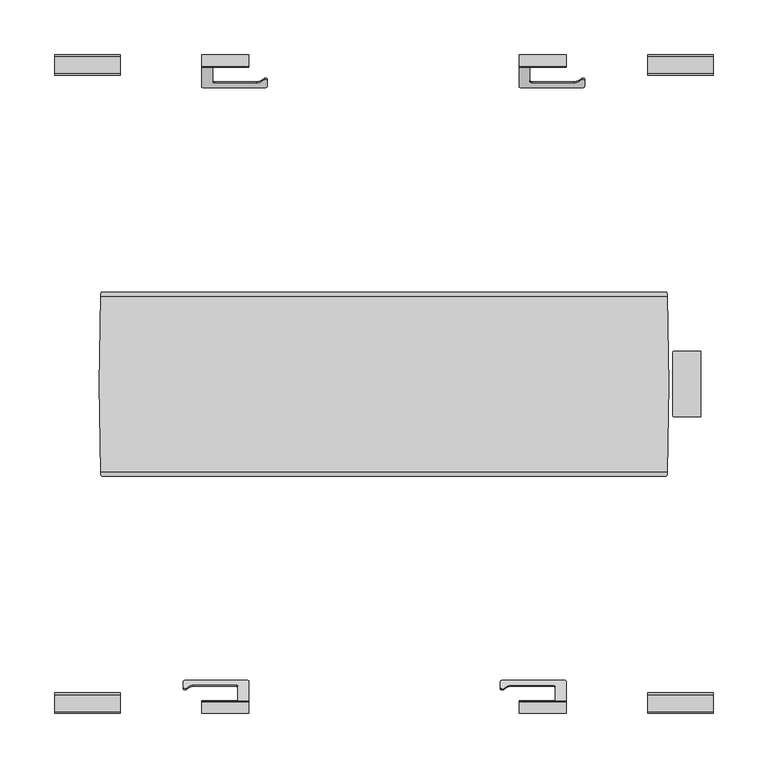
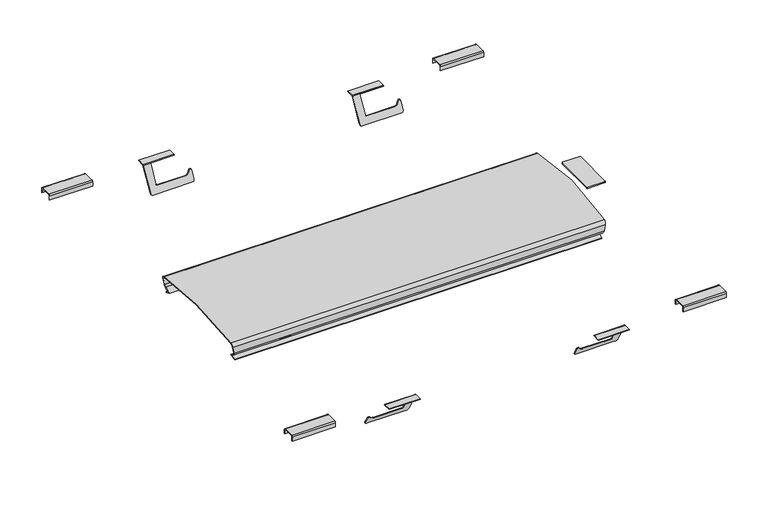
"""IFC4 building model written with IfcOpenShell, lengths in millimetres: light fixture geometry."""

from ifc_helpers import new_model, si_unit, point, frame, frame_2d, origin, origin_with_axes, place, context, project, spatial, polyline, circle_curve, ellipse_curve, trimmed, segment, composite_curve, outline, extrude, source, transform, mapped, element, save
from ifc_brep_helpers import plane_surface, cylinder_surface, revolved_surface, advanced_brep


def light_fixture_d758fedb(model_context):
    return source(origin(), model_context, "Body", "SolidModel", [
        extrude(outline(composite_curve([segment(trimmed(circle_curve(frame_2d((288.3884004, 32.8813286)), 0.79375), [point((288.3884004, 33.6750786))], [point((289.1821504, 32.8813286))], False, "CARTESIAN"), True, "CONTINUOUS"), segment(polyline([(289.1821504, 32.8813286), (289.1821504, -25.7936714)]), True, "CONTINUOUS"), segment(trimmed(circle_curve(frame_2d((288.3884004, -25.7936714)), 0.79375), [point((289.1821504, -25.7936714))], [point((288.3884004, -26.5874214))], False, "CARTESIAN"), True, "CONTINUOUS"), segment(polyline([(288.3884004, -26.5874214), (264.6134004, -26.5874214)]), True, "CONTINUOUS"), segment(trimmed(circle_curve(frame_2d((264.6134004, -25.7936714)), 0.79375), [point((264.6134004, -26.5874214))], [point((263.8196504, -25.7936714))], False, "CARTESIAN"), True, "CONTINUOUS"), segment(polyline([(263.8196504, -25.7936714), (263.8196504, 32.8813286)]), True, "CONTINUOUS"), segment(trimmed(circle_curve(frame_2d((264.6134004, 32.8813286)), 0.79375), [point((263.8196504, 32.8813286))], [point((264.6134004, 33.6750786))], False, "CARTESIAN"), True, "CONTINUOUS"), segment(polyline([(264.6134004, 33.6750786), (288.3884004, 33.6750786)]), True, "CONTINUOUS")], self_intersect=False)), origin_with_axes(), (0.0, 0.0, 1.0), 1.984375),
        advanced_brep(
        [(-255.6073032, -78.4782255, -30.5886096), (-256.2970264, -80.5144833, -26.6769947), (-257.8773567, -80.5144833, -17.7144962), (-258.6991706, -76.7312326, -13.0537584), (-258.7049127, 83.6637386, -13.0211931), (-257.8750742, 87.4855167, -17.7274414), (-256.2767435, 87.4855167, -26.7920248), (-255.5870203, 85.4492589, -30.7036397), (-254.8304406, 79.3213945, -34.9944165), (-254.3568793, 85.9565252, -37.6801157), (-254.194711, 85.5842575, -38.5998182), (-254.7890755, 77.256535, -35.2290094), (-255.7303305, 84.8801635, -29.8908873), (-256.2767435, 86.4933292, -26.7920248), (-257.8750742, 86.4933292, -17.7274414), (-258.5336869, 83.4601226, -13.9922629), (-258.5279593, -76.5272223, -14.0247455), (-257.8773567, -79.5222958, -17.7144962), (-256.2970264, -79.5222958, -26.6769947), (-255.7506134, -77.9091301, -29.7758572), (-254.7890755, -70.1212216, -35.2290094), (-254.194711, -78.4489441, -38.5998182), (-254.3568793, -78.8212117, -37.6801157), (-254.8304406, -72.186081, -34.9944165), (256.2970264, -80.5144833, -26.6769947), (255.6073032, -78.4782255, -30.5886096), (254.8304406, -72.186081, -34.9944165), (254.3568793, -78.8212117, -37.6801157), (254.194711, -78.4489441, -38.5998182), (254.7890755, -70.1212216, -35.2290094), (255.7506134, -77.9091301, -29.7758572), (256.2970264, -79.5222958, -26.6769947), (257.8773567, -79.5222958, -17.7144962), (258.5279593, -76.5272223, -14.0247455), (258.5336869, 83.4601226, -13.9922629), (257.8750742, 86.4933292, -17.7274414), (256.2767435, 86.4933292, -26.7920248), (255.7303305, 84.8801635, -29.8908873), (254.7890755, 77.256535, -35.2290094), (254.194711, 85.5842575, -38.5998182), (254.3568793, 85.9565252, -37.6801157), (254.8304406, 79.3213945, -34.9944165), (255.5870203, 85.4492589, -30.7036397), (256.2767435, 87.4855167, -26.7920248), (257.8750742, 87.4855167, -17.7274414), (258.7049127, 83.6637386, -13.0211931), (258.6991706, -76.7312326, -13.0537584), (257.8773567, -80.5144833, -17.7144962)],
        [
            (0, 1, ellipse_curve(frame((-256.2970264, -75.7392833, -26.6769947), z_axis=(-0.9848077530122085, 0.0, -0.1736481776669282), x_axis=(0.17364817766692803, 0.0, -0.9848077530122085)), 4.8488652, 4.7752)),
            (1, 2),
            (2, 3, ellipse_curve(frame((-257.8773567, -75.7519833, -17.7144962), z_axis=(-0.9848077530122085, 0.0, -0.1736481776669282), x_axis=(0.17364817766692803, 0.0, -0.9848077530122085)), 4.8359692, 4.7625)),
            (3, 4, ellipse_curve(frame((-191.3300605, 3.5438286, -395.1229676), z_axis=(-0.9848077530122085, 0.0, -0.1736481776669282), x_axis=(0.17364817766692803, 0.0, -0.9848077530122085)), 396.4340014, 390.4112781)),
            (4, 5, ellipse_curve(frame((-257.8750742, 82.6769225, -17.7274414), z_axis=(-0.9848077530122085, 0.0, -0.1736481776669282), x_axis=(0.17364817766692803, 0.0, -0.9848077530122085)), 4.8827746, 4.8085943)),
            (5, 6),
            (6, 7, ellipse_curve(frame((-256.2767435, 82.7103167, -26.7920248), z_axis=(-0.9848077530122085, 0.0, -0.1736481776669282), x_axis=(0.17364817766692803, 0.0, -0.9848077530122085)), 4.8488652, 4.7752)),
            (7, 8),
            (8, 9),
            (9, 10),
            (10, 11),
            (11, 12),
            (12, 13, ellipse_curve(frame((-256.2767435, 82.7103167, -26.7920248), z_axis=(0.9848077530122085, 0.0, 0.1736481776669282), x_axis=(-0.17364817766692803, 0.0, 0.9848077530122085)), 3.8413716, 3.7830125)),
            (13, 14),
            (14, 15, ellipse_curve(frame((-257.8750742, 82.6769225, -17.7274414), z_axis=(0.9848077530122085, 0.0, 0.1736481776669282), x_axis=(-0.17364817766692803, 0.0, 0.9848077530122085)), 3.875281, 3.8164068)),
            (15, 16, ellipse_curve(frame((-191.3300605, 3.5438286, -395.1229676), z_axis=(0.9848077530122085, 0.0, 0.1736481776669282), x_axis=(-0.17364817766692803, 0.0, 0.9848077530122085)), 395.4265078, 389.4190906)),
            (16, 17, ellipse_curve(frame((-257.8773567, -75.7519833, -17.7144962), z_axis=(0.9848077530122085, 0.0, 0.1736481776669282), x_axis=(-0.17364817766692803, 0.0, 0.9848077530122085)), 3.8284756, 3.7703125)),
            (17, 18),
            (18, 19, ellipse_curve(frame((-256.2970264, -75.7392833, -26.6769947), z_axis=(0.9848077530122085, 0.0, 0.1736481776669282), x_axis=(-0.17364817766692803, 0.0, 0.9848077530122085)), 3.8413716, 3.7830125)),
            (19, 20),
            (20, 21),
            (21, 22),
            (22, 23),
            (23, 0),
            (24, 25, ellipse_curve(frame((256.2970264, -75.7392833, -26.6769947), z_axis=(0.9848077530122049, 0.0, -0.17364817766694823), x_axis=(0.17364817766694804, 0.0, 0.9848077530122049)), 4.8488652, 4.7752)),
            (25, 26),
            (26, 27),
            (27, 28),
            (28, 29),
            (29, 30),
            (30, 31, ellipse_curve(frame((256.2970264, -75.7392833, -26.6769947), z_axis=(-0.9848077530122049, 0.0, 0.17364817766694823), x_axis=(-0.17364817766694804, 0.0, -0.9848077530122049)), 3.8413716, 3.7830125)),
            (31, 32),
            (32, 33, ellipse_curve(frame((257.8773567, -75.7519833, -17.7144962), z_axis=(-0.9848077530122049, 0.0, 0.17364817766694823), x_axis=(-0.17364817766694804, 0.0, -0.9848077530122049)), 3.8284756, 3.7703125)),
            (33, 34, ellipse_curve(frame((191.3300605, 3.5438286, -395.1229676), z_axis=(-0.9848077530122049, 0.0, 0.17364817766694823), x_axis=(-0.17364817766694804, 0.0, -0.9848077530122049)), 395.4265078, 389.4190906)),
            (34, 35, ellipse_curve(frame((257.8750742, 82.6769225, -17.7274414), z_axis=(-0.9848077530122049, 0.0, 0.17364817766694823), x_axis=(-0.17364817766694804, 0.0, -0.9848077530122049)), 3.875281, 3.8164068)),
            (35, 36),
            (36, 37, ellipse_curve(frame((256.2767435, 82.7103167, -26.7920248), z_axis=(-0.9848077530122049, 0.0, 0.17364817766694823), x_axis=(-0.17364817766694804, 0.0, -0.9848077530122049)), 3.8413716, 3.7830125)),
            (37, 38),
            (38, 39),
            (39, 40),
            (40, 41),
            (41, 42),
            (42, 43, ellipse_curve(frame((256.2767435, 82.7103167, -26.7920248), z_axis=(0.9848077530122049, 0.0, -0.17364817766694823), x_axis=(0.17364817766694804, 0.0, 0.9848077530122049)), 4.8488652, 4.7752)),
            (43, 44),
            (44, 45, ellipse_curve(frame((257.8750742, 82.6769225, -17.7274414), z_axis=(0.9848077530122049, 0.0, -0.17364817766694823), x_axis=(0.17364817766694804, 0.0, 0.9848077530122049)), 4.8827746, 4.8085943)),
            (45, 46, ellipse_curve(frame((191.3300605, 3.5438286, -395.1229676), z_axis=(0.9848077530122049, 0.0, -0.17364817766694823), x_axis=(0.17364817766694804, 0.0, 0.9848077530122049)), 396.4340014, 390.4112781)),
            (46, 47, ellipse_curve(frame((257.8773567, -75.7519833, -17.7144962), z_axis=(0.9848077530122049, 0.0, -0.17364817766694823), x_axis=(0.17364817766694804, 0.0, 0.9848077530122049)), 4.8359692, 4.7625)),
            (47, 24),
            (24, 1),
            (0, 25),
            (23, 26),
            (22, 27),
            (21, 28),
            (20, 29),
            (19, 30),
            (18, 31),
            (17, 32),
            (16, 33),
            (15, 34),
            (14, 35),
            (13, 36),
            (12, 37),
            (11, 38),
            (10, 39),
            (9, 40),
            (8, 41),
            (7, 42),
            (6, 43),
            (5, 44),
            (4, 45),
            (3, 46),
            (2, 47),
        ],
        [
            plane_surface(frame((-248.4220366, -297.9323433, -71.3382812), z_axis=(-0.9848077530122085, 0.0, -0.1736481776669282), x_axis=(0.0, 1.0, 0.0))),
            plane_surface(frame((268.5762105, -297.9323433, 42.9617188), z_axis=(0.9848077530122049, 0.0, -0.17364817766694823), x_axis=(0.0, 1.0, 0.0))),
            cylinder_surface(frame((-301.4761719, -75.7392833, -26.6769947), z_axis=(1.0, 0.0, 0.0), x_axis=(0.0, 1.0, 0.0)), 4.7752),
            plane_surface(frame((261.0, -78.4782255, -30.5886096), z_axis=(0.0, -0.5735764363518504, -0.8191520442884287), x_axis=(-1.0, 0.0, 0.0))),
            plane_surface(frame((261.0, -72.186081, -34.9944165), z_axis=(0.0, -0.3751988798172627, 0.9269443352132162), x_axis=(-1.0, 0.0, 0.0))),
            plane_surface(frame((261.0, -78.8212117, -37.6801157), z_axis=(0.0, -0.9269443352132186, -0.37519887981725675), x_axis=(-1.0, 0.0, 0.0))),
            plane_surface(frame((261.0, -78.4489441, -38.5998182), z_axis=(0.0, 0.3751988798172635, -0.9269443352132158), x_axis=(-1.0, 0.0, 0.0))),
            plane_surface(frame((261.0, -70.1212216, -35.2290094), z_axis=(0.0, 0.5735764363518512, 0.8191520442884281), x_axis=(-1.0, 0.0, 0.0))),
            revolved_surface(polyline([(-256.96407357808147, -71.9562708, -26.6769947), (256.9640735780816, -71.9562708, -26.6769947)]), (-301.4761719, -75.7392833, -26.6769947), (-1.0, 0.0, 0.0)),
            plane_surface(frame((261.0, -79.5222958, -26.6769947), z_axis=(0.0, 1.0, 0.0), x_axis=(-1.0, 0.0, 0.0))),
            revolved_surface(polyline([(-258.5421645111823, -71.9816708, -17.7144962), (258.5421645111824, -71.9816708, -17.7144962)]), (-301.4761719, -75.7519833, -17.7144962), (-1.0, 0.0, 0.0)),
            revolved_surface(polyline([(-259.9951529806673, 392.9629192, -395.1229676), (259.9951529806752, 392.9629192, -395.1229676)]), (-301.4761719, 3.5438286, -395.1229676), (-1.0, 0.0, 0.0)),
            revolved_surface(polyline([(-258.54800968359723, 86.4933293, -17.7274414), (258.5480096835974, 86.4933293, -17.7274414)]), (-301.4761719, 82.6769225, -17.7274414), (-1.0, 0.0, 0.0)),
            plane_surface(frame((261.0, 86.4933292, -17.7274414), z_axis=(0.0, -1.0, 1.0247541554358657e-12), x_axis=(-1.0, 0.0, 0.0))),
            revolved_surface(polyline([(-256.9437906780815, 86.4933292, -26.7920248), (256.9437906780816, 86.4933292, -26.7920248)]), (-301.4761719, 82.7103167, -26.7920248), (-1.0, 0.0, 0.0)),
            plane_surface(frame((261.0, 84.8801635, -29.8908873), z_axis=(0.0, -0.5735764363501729, 0.8191520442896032), x_axis=(-1.0, 0.0, 0.0))),
            plane_surface(frame((261.0, 77.256535, -35.2290094), z_axis=(0.0, -0.37519887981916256, -0.9269443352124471), x_axis=(-1.0, 0.0, 0.0))),
            plane_surface(frame((261.0, 85.5842575, -38.5998182), z_axis=(0.0, 0.9269443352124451, -0.3751988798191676), x_axis=(-1.0, 0.0, 0.0))),
            plane_surface(frame((261.0, 85.9565252, -37.6801157), z_axis=(0.0, 0.37519887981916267, 0.9269443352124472), x_axis=(-1.0, 0.0, 0.0))),
            plane_surface(frame((261.0, 79.3213945, -34.9944165), z_axis=(0.0, 0.5735764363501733, -0.819152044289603), x_axis=(-1.0, 0.0, 0.0))),
            cylinder_surface(frame((-301.4761719, 82.7103167, -26.7920248), z_axis=(1.0, 0.0, 0.0), x_axis=(0.0, 1.0, 0.0)), 4.7752),
            plane_surface(frame((261.0, 87.4855167, -26.7920248), z_axis=(0.0, 1.0, -1.0247541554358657e-12), x_axis=(-1.0, 0.0, 0.0))),
            cylinder_surface(frame((-301.4761719, 82.6769225, -17.7274414), z_axis=(1.0, 0.0, 0.0), x_axis=(0.0, 1.0, 0.0)), 4.8085943),
            cylinder_surface(frame((-301.4761719, 3.5438286, -395.1229676), z_axis=(1.0, 0.0, 0.0), x_axis=(0.0, 1.0, 0.0)), 390.4112781),
            cylinder_surface(frame((-301.4761719, -75.7519833, -17.7144962), z_axis=(1.0, 0.0, 0.0), x_axis=(0.0, 1.0, 0.0)), 4.7625),
            plane_surface(frame((261.0, -80.5144833, -17.7144962), z_axis=(0.0, -1.0, 0.0), x_axis=(-1.0, 0.0, 0.0))),
        ],
        [
            (0, [[1, 2, 3, 4, 5, 6, 7, 8, 9, 10, 11, 12, 13, 14, 15, 16, 17, 18, 19, 20, 21, 22, 23, 24]]),
            (1, [[25, 26, 27, 28, 29, 30, 31, 32, 33, 34, 35, 36, 37, 38, 39, 40, 41, 42, 43, 44, 45, 46, 47, 48]]),
            (2, [[49, -1, 50, -25]]),
            (3, [[-50, -24, 51, -26]]),
            (4, [[-51, -23, 52, -27]]),
            (5, [[-52, -22, 53, -28]]),
            (6, [[-53, -21, 54, -29]]),
            (7, [[-54, -20, 55, -30]]),
            (8, [[-55, -19, 56, -31]]),
            (9, [[-56, -18, 57, -32]]),
            (10, [[-57, -17, 58, -33]]),
            (11, [[-58, -16, 59, -34]]),
            (12, [[-59, -15, 60, -35]]),
            (13, [[-60, -14, 61, -36]]),
            (14, [[-61, -13, 62, -37]]),
            (15, [[-62, -12, 63, -38]]),
            (16, [[-63, -11, 64, -39]]),
            (17, [[-64, -10, 65, -40]]),
            (18, [[-65, -9, 66, -41]]),
            (19, [[-66, -8, 67, -42]]),
            (20, [[-67, -7, 68, -43]]),
            (21, [[-68, -6, 69, -44]]),
            (22, [[-69, -5, 70, -45]]),
            (23, [[-70, -4, 71, -46]]),
            (24, [[-71, -3, 72, -47]]),
            (25, [[-49, -48, -72, -2]]),
        ],
    ),
        advanced_brep(
        [(173.7940577, 279.7314152, -33.398086), (173.7940577, 278.8148717, -33.398086), (178.0879015, 279.9926649, -31.3580883), (178.0879015, 280.9092084, -31.3580883), (180.4331692, 281.6543404, -28.4799818), (180.4331692, 282.570884, -28.4799818), (183.329416, 281.0593198, -29.5105878), (183.329416, 281.9758633, -29.5105878), (183.329416, 275.6987473, -38.7953718), (183.329416, 276.6152908, -38.7953718), (181.4384554, 273.89967, -41.911465), (179.8164478, 274.5870777, -42.30834), (123.329416, 275.3427686, -39.4119449), (123.329416, 276.2593122, -39.4119449), (126.2258111, 274.5870777, -42.30834), (124.7624233, 273.89967, -41.911465), (123.329416, 292.9028585, -8.996977), (123.329416, 293.9152023, -8.4125), (123.329416, 304.2262505, -8.4125), (123.329416, 304.2262505, -9.20625), (123.329416, 293.6985782, -9.20625), (166.329416, 304.2262505, -8.4125), (166.329416, 293.9152023, -8.4125), (166.329416, 292.9028585, -8.996977), (166.329416, 292.7820347, -9.20625), (166.329416, 304.2262505, -9.20625), (133.329416, 293.6985782, -9.20625), (133.329416, 292.7820347, -9.20625), (133.329416, 279.7314152, -31.810586), (133.329416, 280.6479588, -31.810586), (134.916916, 278.8148717, -33.398086), (134.916916, 279.7314152, -33.398086)],
        [
            (0, 1),
            (1, 2, ellipse_curve(frame((173.7940577, 282.012757, -27.8591861), z_axis=(0.0, -0.866025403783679, 0.5000000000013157), x_axis=(0.0, -0.5000000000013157, -0.866025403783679)), 6.3957706, 5.5388999)),
            (2, 3),
            (3, 0, ellipse_curve(frame((173.7940577, 282.9293006, -27.8591861), z_axis=(0.0, 0.8660254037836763, -0.5000000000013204), x_axis=(0.0, -0.5000000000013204, -0.8660254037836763)), 6.3957706, 5.5388999)),
            (2, 4),
            (4, 5),
            (5, 3),
            (4, 6, ellipse_curve(frame((181.6979262, 281.0593198, -29.5105878), z_axis=(0.0, 0.866025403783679, -0.5000000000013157), x_axis=(0.0, 0.5000000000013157, 0.866025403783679)), 1.8838821, 1.6314898)),
            (6, 7),
            (7, 5, ellipse_curve(frame((181.6979262, 281.9758633, -29.5105878), z_axis=(0.0, -0.8660254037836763, 0.5000000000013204), x_axis=(0.0, 0.5000000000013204, 0.8660254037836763)), 1.8838821, 1.6314898)),
            (6, 8),
            (8, 9),
            (9, 7),
            (8, 10, ellipse_curve(frame((179.8164478, 275.6987473, -38.7953718), z_axis=(0.0, 0.866025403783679, -0.5000000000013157), x_axis=(0.0, 0.5000000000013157, 0.866025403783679)), 4.0564263, 3.5129682)),
            (10, 11, ellipse_curve(frame((179.8164478, 268.5024382, -38.7953718), z_axis=(0.0, 0.5000000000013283, 0.8660254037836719), x_axis=(0.0, 0.8660254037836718, -0.5000000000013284)), 7.0259365, 3.5129682)),
            (11, 9, ellipse_curve(frame((179.8164478, 276.6152908, -38.7953718), z_axis=(0.0, -0.8660254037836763, 0.5000000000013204), x_axis=(0.0, 0.5000000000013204, 0.8660254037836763)), 4.0564263, 3.5129682)),
            (12, 13),
            (13, 14, ellipse_curve(frame((126.2258111, 276.2593122, -39.4119449), z_axis=(0.0, -0.8660254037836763, 0.5000000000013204), x_axis=(0.0, 0.5000000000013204, 0.8660254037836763)), 3.344469, 2.8963951)),
            (14, 15, ellipse_curve(frame((126.2258111, 269.5703742, -39.4119449), z_axis=(0.0, 0.5000000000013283, 0.8660254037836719), x_axis=(0.0, 0.8660254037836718, -0.5000000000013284)), 5.7927902, 2.8963951)),
            (15, 12, ellipse_curve(frame((126.2258111, 275.3427686, -39.4119449), z_axis=(0.0, 0.866025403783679, -0.5000000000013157), x_axis=(0.0, 0.5000000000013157, 0.866025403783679)), 3.344469, 2.8963951)),
            (12, 16),
            (16, 17, circle_curve(frame((123.329416, 293.9152023, -9.5814539), z_axis=(-1.0, 0.0, 0.0), x_axis=(0.0, 1.0, 0.0)), 1.1689539)),
            (17, 18),
            (18, 19),
            (19, 20),
            (20, 13),
            (21, 22),
            (22, 23, circle_curve(frame((166.329416, 293.9152023, -9.5814539), z_axis=(1.0, 0.0, 0.0), x_axis=(0.0, 1.0, 0.0)), 1.1689539)),
            (23, 24),
            (24, 25),
            (25, 21),
            (26, 27),
            (27, 28),
            (28, 29),
            (29, 26),
            (28, 30, ellipse_curve(frame((134.916916, 279.7314152, -31.810586), z_axis=(0.0, -0.866025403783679, 0.5000000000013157), x_axis=(0.0, -0.5000000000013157, -0.866025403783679)), 1.8330871, 1.5875)),
            (30, 31),
            (31, 29, ellipse_curve(frame((134.916916, 280.6479588, -31.810586), z_axis=(0.0, 0.8660254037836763, -0.5000000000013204), x_axis=(0.0, -0.5000000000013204, -0.8660254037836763)), 1.8330871, 1.5875)),
            (0, 31),
            (30, 1),
            (21, 18),
            (17, 22),
            (16, 23),
            (15, 10),
            (27, 24),
            (14, 11),
            (20, 26),
            (19, 25),
        ],
        [
            revolved_surface(polyline([(179.3329576, 278.8148716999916, -27.8591861), (179.3329576, 286.12718590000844, -27.8591861)]), (173.7940577, 3.5438286, -27.8591861), (0.0, -1.0, 0.0)),
            plane_surface(frame((178.0879015, 3.5438286, -31.3580883), z_axis=(-0.7752160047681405, 0.0, 0.6316962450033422), x_axis=(0.0, 1.0, 0.0))),
            cylinder_surface(frame((181.6979262, 3.5438286, -29.5105878), z_axis=(0.0, 1.0, 0.0), x_axis=(1.0, 0.0, 0.0)), 1.6314898),
            plane_surface(frame((183.329416, 3.5438286, -29.5105878), z_axis=(1.0, 0.0, 0.0), x_axis=(0.0, 1.0, 0.0))),
            cylinder_surface(frame((179.8164478, 3.5438286, -38.7953718), z_axis=(0.0, 1.0, 0.0), x_axis=(1.0, 0.0, 0.0)), 3.5129682),
            cylinder_surface(frame((126.2258111, 3.5438286, -39.4119449), z_axis=(0.0, 1.0, 0.0), x_axis=(1.0, 0.0, 0.0)), 2.8963951),
            plane_surface(frame((123.329416, 3.5438286, -39.4119449), z_axis=(-1.0, 0.0, 0.0), x_axis=(0.0, 1.0, 0.0))),
            plane_surface(frame((166.329416, 3.5438286, -5.4585728), z_axis=(1.0, 0.0, 0.0), x_axis=(0.0, 1.0, 0.0))),
            plane_surface(frame((133.329416, 3.5438286, -9.20625), z_axis=(1.0, 0.0, 0.0), x_axis=(0.0, 1.0, 0.0))),
            revolved_surface(polyline([(136.504416, 278.8148716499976, -31.810586), (136.504416, 281.56450235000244, -31.810586)]), (134.916916, 3.5438286, -31.810586), (0.0, -1.0, 0.0)),
            plane_surface(frame((134.916916, 3.5438286, -33.398086), z_axis=(0.0, 0.0, 1.0), x_axis=(0.0, 1.0, 0.0))),
            plane_surface(frame((186.784375, 304.2262505, -8.4125), z_axis=(0.0, 0.0, 1.0), x_axis=(-1.0, 0.0, 0.0))),
            cylinder_surface(frame((103.3484548, 293.9152023, -9.5814539), z_axis=(1.0, 0.0, 0.0), x_axis=(0.0, 1.0, 0.0)), 1.1689539),
            plane_surface(frame((186.784375, 292.9028585, -8.996977), z_axis=(0.0, -0.866025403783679, 0.5000000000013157), x_axis=(-1.0, 0.0, 0.0))),
            plane_surface(frame((186.784375, 273.89967, -41.911465), z_axis=(0.0, -0.5000000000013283, -0.8660254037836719), x_axis=(-1.0, 0.0, 0.0))),
            plane_surface(frame((186.784375, 274.5870777, -42.30834), z_axis=(0.0, 0.8660254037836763, -0.5000000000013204), x_axis=(-1.0, 0.0, 0.0))),
            plane_surface(frame((186.784375, 293.6985782, -9.20625), z_axis=(0.0, 0.0, -1.0), x_axis=(-1.0, 0.0, 0.0))),
            plane_surface(frame((186.784375, 304.2262505, -9.20625), z_axis=(0.0, 1.0, 0.0), x_axis=(-1.0, 0.0, 0.0))),
        ],
        [
            (0, [[1, 2, 3, 4]]),
            (1, [[-3, 5, 6, 7]]),
            (2, [[-6, 8, 9, 10]]),
            (3, [[-9, 11, 12, 13]]),
            (4, [[-12, 14, 15, 16]]),
            (5, [[17, 18, 19, 20]]),
            (6, [[-17, 21, 22, 23, 24, 25, 26]]),
            (7, [[27, 28, 29, 30, 31]]),
            (8, [[32, 33, 34, 35]]),
            (9, [[-34, 36, 37, 38]]),
            (10, [[-1, 39, -37, 40]]),
            (11, [[41, -23, 42, -27]]),
            (12, [[-42, -22, 43, -28]]),
            (13, [[-43, -21, -20, 44, -14, -11, -8, -5, -2, -40, -36, -33, 45, -29]]),
            (14, [[-44, -19, 46, -15]]),
            (15, [[-46, -18, -26, 47, -35, -38, -39, -4, -7, -10, -13, -16]]),
            (16, [[-47, -25, 48, -30, -45, -32]]),
            (17, [[-41, -31, -48, -24]]),
        ],
    ),
        advanced_brep(
        [(166.329416, -297.1385933, -8.4125), (123.329416, -297.1385933, -8.4125), (123.329416, -297.1385933, -9.20625), (166.329416, -297.1385933, -9.20625), (123.329416, -285.6943775, -9.20625), (156.329416, -285.6943775, -9.20625), (156.329416, -286.610921, -9.20625), (166.329416, -286.610921, -9.20625), (156.329416, -273.5603016, -31.810586), (154.741916, -272.643758, -33.398086), (115.8647743, -272.643758, -33.398086), (111.5709305, -273.8215512, -31.3580883), (109.2256628, -275.4832268, -28.4799818), (106.329416, -274.8882061, -29.5105878), (106.329416, -269.5276336, -38.7953718), (109.8423842, -267.4994205, -42.30834), (163.4330209, -267.4994205, -42.30834), (166.329416, -269.171655, -39.4119449), (108.2203766, -266.8120128, -41.911465), (164.8964087, -266.8120128, -41.911465), (106.329416, -268.6110901, -38.7953718), (106.329416, -273.9716626, -29.5105878), (109.2256628, -274.5666832, -28.4799818), (111.5709305, -272.9050076, -31.3580883), (115.8647743, -271.7272145, -33.398086), (154.741916, -271.7272145, -33.398086), (156.329416, -272.643758, -31.810586), (123.329416, -285.8152013, -8.996977), (166.329416, -285.8152013, -8.996977), (166.329416, -268.2551114, -39.4119449), (123.329416, -286.8275451, -8.4125), (166.329416, -286.8275451, -8.4125)],
        [
            (0, 1),
            (1, 2),
            (2, 3),
            (3, 0),
            (4, 5),
            (5, 6),
            (6, 7),
            (7, 3),
            (2, 4),
            (6, 8),
            (8, 9, ellipse_curve(frame((154.741916, -273.5603016, -31.810586), z_axis=(0.0, 0.86602540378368, 0.5000000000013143), x_axis=(0.0, -0.500000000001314, 0.8660254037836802)), 1.8330871, 1.5875)),
            (9, 10),
            (10, 11, ellipse_curve(frame((115.8647743, -275.8416433, -27.8591861), z_axis=(0.0, 0.86602540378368, 0.5000000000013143), x_axis=(0.0, -0.500000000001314, 0.8660254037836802)), 6.3957706, 5.5388999)),
            (11, 12),
            (12, 13, ellipse_curve(frame((107.9609058, -274.8882061, -29.5105878), z_axis=(0.0, -0.86602540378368, -0.5000000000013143), x_axis=(0.0, 0.500000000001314, -0.8660254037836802)), 1.8838821, 1.6314898)),
            (13, 14),
            (14, 15, ellipse_curve(frame((109.8423842, -269.5276336, -38.7953718), z_axis=(0.0, -0.86602540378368, -0.5000000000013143), x_axis=(0.0, 0.500000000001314, -0.8660254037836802)), 4.0564263, 3.5129682)),
            (15, 16),
            (16, 17, ellipse_curve(frame((163.4330209, -269.171655, -39.4119449), z_axis=(0.0, -0.86602540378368, -0.5000000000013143), x_axis=(0.0, 0.500000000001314, -0.8660254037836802)), 3.344469, 2.8963951)),
            (17, 7),
            (15, 18, ellipse_curve(frame((109.8423842, -261.414781, -38.7953718), z_axis=(0.0, 0.5000000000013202, -0.8660254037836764), x_axis=(0.0, 0.8660254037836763, 0.50000000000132)), 7.0259365, 3.5129682)),
            (18, 19),
            (19, 16, ellipse_curve(frame((163.4330209, -262.482717, -39.4119449), z_axis=(0.0, 0.5000000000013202, -0.8660254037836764), x_axis=(0.0, 0.8660254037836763, 0.50000000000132)), 5.7927902, 2.8963951)),
            (18, 20, ellipse_curve(frame((109.8423842, -268.6110901, -38.7953718), z_axis=(0.0, 0.8660254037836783, 0.500000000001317), x_axis=(0.0, 0.500000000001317, -0.8660254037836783)), 4.0564263, 3.5129682)),
            (20, 21),
            (21, 22, ellipse_curve(frame((107.9609058, -273.9716626, -29.5105878), z_axis=(0.0, 0.8660254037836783, 0.500000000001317), x_axis=(0.0, 0.500000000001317, -0.8660254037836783)), 1.8838821, 1.6314898)),
            (22, 23),
            (23, 24, ellipse_curve(frame((115.8647743, -274.9250998, -27.8591861), z_axis=(0.0, -0.8660254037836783, -0.500000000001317), x_axis=(0.0, -0.500000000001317, 0.8660254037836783)), 6.3957706, 5.5388999)),
            (24, 25),
            (25, 26, ellipse_curve(frame((154.741916, -272.643758, -31.810586), z_axis=(0.0, -0.8660254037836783, -0.500000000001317), x_axis=(0.0, -0.500000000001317, 0.8660254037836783)), 1.8330871, 1.5875)),
            (26, 5),
            (4, 27),
            (27, 28),
            (28, 29),
            (29, 19, ellipse_curve(frame((163.4330209, -268.2551114, -39.4119449), z_axis=(0.0, 0.8660254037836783, 0.500000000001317), x_axis=(0.0, 0.500000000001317, -0.8660254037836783)), 3.344469, 2.8963951)),
            (27, 30, circle_curve(frame((123.329416, -286.8275451, -9.5814539), z_axis=(1.0, 0.0, 0.0), x_axis=(0.0, 1.0, 0.0)), 1.1689539)),
            (30, 31),
            (31, 28, circle_curve(frame((166.329416, -286.8275451, -9.5814539), z_axis=(-1.0, 0.0, 0.0), x_axis=(0.0, 1.0, 0.0)), 1.1689539)),
            (0, 31),
            (30, 1),
            (24, 10),
            (9, 25),
            (8, 26),
            (17, 29),
            (14, 20),
            (13, 21),
            (12, 22),
            (11, 23),
        ],
        [
            plane_surface(frame((186.784375, -297.1385933, -8.4125), z_axis=(0.0, -1.0, 0.0), x_axis=(-1.0, 0.0, 0.0))),
            plane_surface(frame((186.784375, -297.1385933, -9.20625), z_axis=(0.0, 0.0, -1.0), x_axis=(-1.0, 0.0, 0.0))),
            plane_surface(frame((186.784375, -286.610921, -9.20625), z_axis=(0.0, -0.86602540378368, -0.5000000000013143), x_axis=(-1.0, 0.0, 0.0))),
            plane_surface(frame((186.784375, -267.4994205, -42.30834), z_axis=(0.0, 0.5000000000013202, -0.8660254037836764), x_axis=(-1.0, 0.0, 0.0))),
            plane_surface(frame((186.784375, -266.8120128, -41.911465), z_axis=(0.0, 0.8660254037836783, 0.500000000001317), x_axis=(-1.0, 0.0, 0.0))),
            cylinder_surface(frame((900.1843365, -286.8275451, -9.5814539), z_axis=(1.0, 0.0, 0.0), x_axis=(0.0, 1.0, 0.0)), 1.1689539),
            plane_surface(frame((186.784375, -286.8275451, -8.4125), z_axis=(0.0, 0.0, 1.0), x_axis=(-1.0, 0.0, 0.0))),
            plane_surface(frame((115.8647743, -297.9323433, -33.398086), z_axis=(0.0, 0.0, 1.0), x_axis=(0.0, 1.0, 0.0))),
            revolved_surface(polyline([(156.329416, -274.4768451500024, -31.810586), (156.329416, -271.7272144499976, -31.810586)]), (154.741916, 3.5438286, -31.810586), (0.0, -1.0, 0.0)),
            plane_surface(frame((156.329416, -297.9323433, -31.810586), z_axis=(-1.0, 0.0, 0.0), x_axis=(0.0, 1.0, 0.0))),
            plane_surface(frame((123.329416, -297.9323433, -9.20625), z_axis=(-1.0, 0.0, 0.0), x_axis=(0.0, 1.0, 0.0))),
            plane_surface(frame((166.329416, -297.9323433, -5.4585728), z_axis=(1.0, 0.0, 0.0), x_axis=(0.0, 1.0, 0.0))),
            cylinder_surface(frame((163.4330209, 3.5438286, -39.4119449), z_axis=(0.0, 1.0, 0.0), x_axis=(1.0, 0.0, 0.0)), 2.8963951),
            cylinder_surface(frame((109.8423842, 3.5438286, -38.7953718), z_axis=(0.0, 1.0, 0.0), x_axis=(1.0, 0.0, 0.0)), 3.5129682),
            plane_surface(frame((106.329416, -297.9323433, -38.7953718), z_axis=(-1.0, 0.0, 0.0), x_axis=(0.0, 1.0, 0.0))),
            cylinder_surface(frame((107.9609058, 3.5438286, -29.5105878), z_axis=(0.0, 1.0, 0.0), x_axis=(1.0, 0.0, 0.0)), 1.6314898),
            plane_surface(frame((109.2256628, -297.9323433, -28.4799818), z_axis=(0.7752160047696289, 0.0, 0.6316962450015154), x_axis=(0.0, 1.0, 0.0))),
            revolved_surface(polyline([(121.4036742, -279.0395286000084, -27.8591861), (121.4036742, -271.7272144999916, -27.8591861)]), (115.8647743, 3.5438286, -27.8591861), (0.0, -1.0, 0.0)),
        ],
        [
            (0, [[1, 2, 3, 4]]),
            (1, [[5, 6, 7, 8, -3, 9]]),
            (2, [[-7, 10, 11, 12, 13, 14, 15, 16, 17, 18, 19, 20]]),
            (3, [[-18, 21, 22, 23]]),
            (4, [[-22, 24, 25, 26, 27, 28, 29, 30, 31, -5, 32, 33, 34, 35]]),
            (5, [[-33, 36, 37, 38]]),
            (6, [[-1, 39, -37, 40]]),
            (7, [[41, -12, 42, -29]]),
            (8, [[-42, -11, 43, -30]]),
            (9, [[-43, -10, -6, -31]]),
            (10, [[-9, -2, -40, -36, -32]]),
            (11, [[44, -34, -38, -39, -4, -8, -20]]),
            (12, [[-44, -19, -23, -35]]),
            (13, [[45, -24, -21, -17]]),
            (14, [[-45, -16, 46, -25]]),
            (15, [[-46, -15, 47, -26]]),
            (16, [[-47, -14, 48, -27]]),
            (17, [[-41, -28, -48, -13]]),
        ],
    ),
        advanced_brep(
        [(-173.9399132, -271.7272145, -33.398086), (-173.9399132, -272.643758, -33.398086), (-135.0627715, -272.643758, -33.398086), (-135.0627715, -271.7272145, -33.398086), (-133.4752715, -273.5603016, -31.810586), (-133.4752715, -272.643758, -31.810586), (-133.4752715, -286.610921, -9.20625), (-133.4752715, -285.6943775, -9.20625), (-123.4752715, -269.171655, -39.4119449), (-123.4752715, -268.2551114, -39.4119449), (-123.4752715, -285.8152013, -8.996977), (-123.4752715, -286.8275451, -8.4125), (-123.4752715, -297.1385933, -8.4125), (-123.4752715, -297.1385933, -9.20625), (-123.4752715, -286.610921, -9.20625), (-126.3716666, -267.4994205, -42.30834), (-124.9082788, -266.8120128, -41.911465), (-183.4752715, -269.5276336, -38.7953718), (-183.4752715, -268.6110901, -38.7953718), (-181.5843109, -266.8120128, -41.911465), (-179.9623033, -267.4994205, -42.30834), (-183.4752715, -274.8882061, -29.5105878), (-183.4752715, -273.9716626, -29.5105878), (-180.5790247, -275.4832268, -28.4799818), (-180.5790247, -274.5666832, -28.4799818), (-178.233757, -273.8215512, -31.3580883), (-178.233757, -272.9050076, -31.3580883), (-166.4752715, -297.1385933, -9.20625), (-166.4752715, -297.1385933, -8.4125), (-166.4752715, -286.8275451, -8.4125), (-166.4752715, -285.8152013, -8.996977), (-166.4752715, -285.6943775, -9.20625)],
        [
            (0, 1),
            (1, 2),
            (2, 3),
            (3, 0),
            (2, 4, ellipse_curve(frame((-135.0627715, -273.5603016, -31.810586), z_axis=(0.0, -0.8660254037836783, -0.5000000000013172), x_axis=(0.0, -0.5000000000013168, 0.8660254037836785)), 1.8330871, 1.5875)),
            (4, 5),
            (5, 3, ellipse_curve(frame((-135.0627715, -272.643758, -31.810586), z_axis=(0.0, 0.8660254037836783, 0.500000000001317), x_axis=(0.0, -0.500000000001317, 0.8660254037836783)), 1.8330871, 1.5875)),
            (4, 6),
            (6, 7),
            (7, 5),
            (8, 9),
            (9, 10),
            (10, 11, circle_curve(frame((-123.4752715, -286.8275451, -9.5814539), z_axis=(1.0, 0.0, 0.0), x_axis=(0.0, 1.0, 0.0)), 1.1689539)),
            (11, 12),
            (12, 13),
            (13, 14),
            (14, 8),
            (8, 15, ellipse_curve(frame((-126.3716666, -269.171655, -39.4119449), z_axis=(0.0, 0.8660254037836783, 0.5000000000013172), x_axis=(0.0, 0.5000000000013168, -0.8660254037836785)), 3.344469, 2.8963951)),
            (15, 16, ellipse_curve(frame((-126.3716666, -262.482717, -39.4119449), z_axis=(0.0, -0.5000000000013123, 0.8660254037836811), x_axis=(0.0, 0.866025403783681, 0.5000000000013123)), 5.7927902, 2.8963951)),
            (16, 9, ellipse_curve(frame((-126.3716666, -268.2551114, -39.4119449), z_axis=(0.0, -0.8660254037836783, -0.500000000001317), x_axis=(0.0, 0.500000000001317, -0.8660254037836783)), 3.344469, 2.8963951)),
            (17, 18),
            (18, 19, ellipse_curve(frame((-179.9623033, -268.6110901, -38.7953718), z_axis=(0.0, -0.8660254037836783, -0.500000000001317), x_axis=(0.0, 0.500000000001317, -0.8660254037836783)), 4.0564263, 3.5129682)),
            (19, 20, ellipse_curve(frame((-179.9623033, -261.414781, -38.7953718), z_axis=(0.0, -0.5000000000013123, 0.8660254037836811), x_axis=(0.0, 0.866025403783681, 0.5000000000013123)), 7.0259365, 3.5129682)),
            (20, 17, ellipse_curve(frame((-179.9623033, -269.5276336, -38.7953718), z_axis=(0.0, 0.8660254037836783, 0.5000000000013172), x_axis=(0.0, 0.5000000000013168, -0.8660254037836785)), 4.0564263, 3.5129682)),
            (17, 21),
            (21, 22),
            (22, 18),
            (21, 23, ellipse_curve(frame((-181.8437817, -274.8882061, -29.5105878), z_axis=(0.0, 0.8660254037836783, 0.5000000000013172), x_axis=(0.0, 0.5000000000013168, -0.8660254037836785)), 1.8838821, 1.6314898)),
            (23, 24),
            (24, 22, ellipse_curve(frame((-181.8437817, -273.9716626, -29.5105878), z_axis=(0.0, -0.8660254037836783, -0.500000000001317), x_axis=(0.0, 0.500000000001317, -0.8660254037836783)), 1.8838821, 1.6314898)),
            (23, 25),
            (25, 26),
            (26, 24),
            (0, 26, ellipse_curve(frame((-173.9399132, -274.9250998, -27.8591861), z_axis=(0.0, 0.8660254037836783, 0.500000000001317), x_axis=(0.0, -0.500000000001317, 0.8660254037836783)), 6.3957706, 5.5388999)),
            (25, 1, ellipse_curve(frame((-173.9399132, -275.8416433, -27.8591861), z_axis=(0.0, -0.8660254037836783, -0.5000000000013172), x_axis=(0.0, -0.5000000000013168, 0.8660254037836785)), 6.3957706, 5.5388999)),
            (27, 28),
            (28, 29),
            (29, 30, circle_curve(frame((-166.4752715, -286.8275451, -9.5814539), z_axis=(-1.0, 0.0, 0.0), x_axis=(0.0, 1.0, 0.0)), 1.1689539)),
            (30, 31),
            (31, 27),
            (12, 28),
            (27, 13),
            (6, 14),
            (31, 7),
            (20, 15),
            (19, 16),
            (30, 10),
            (29, 11),
        ],
        [
            plane_surface(frame((-173.9399132, -297.9323433, -33.398086), z_axis=(0.0, 0.0, 1.0), x_axis=(0.0, 1.0, 0.0))),
            revolved_surface(polyline([(-133.4752715, -274.4768451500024, -31.810586), (-133.4752715, -271.7272144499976, -31.810586)]), (-135.0627715, 3.5438286, -31.810586), (0.0, -1.0, 0.0)),
            plane_surface(frame((-133.4752715, -297.9323433, -31.810586), z_axis=(-1.0, 0.0, 0.0), x_axis=(0.0, 1.0, 0.0))),
            plane_surface(frame((-123.4752715, -297.9323433, -5.4585728), z_axis=(1.0, 0.0, 0.0), x_axis=(0.0, 1.0, 0.0))),
            cylinder_surface(frame((-126.3716666, 3.5438286, -39.4119449), z_axis=(0.0, 1.0, 0.0), x_axis=(1.0, 0.0, 0.0)), 2.8963951),
            cylinder_surface(frame((-179.9623033, 3.5438286, -38.7953718), z_axis=(0.0, 1.0, 0.0), x_axis=(1.0, 0.0, 0.0)), 3.5129682),
            plane_surface(frame((-183.4752715, -297.9323433, -38.7953718), z_axis=(-1.0, 0.0, 0.0), x_axis=(0.0, 1.0, 0.0))),
            cylinder_surface(frame((-181.8437817, 3.5438286, -29.5105878), z_axis=(0.0, 1.0, 0.0), x_axis=(1.0, 0.0, 0.0)), 1.6314898),
            plane_surface(frame((-180.5790247, -297.9323433, -28.4799818), z_axis=(0.7752160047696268, 0.0, 0.6316962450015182), x_axis=(0.0, 1.0, 0.0))),
            revolved_surface(polyline([(-168.40101330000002, -279.0395286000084, -27.8591861), (-168.40101330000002, -271.7272144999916, -27.8591861)]), (-173.9399132, 3.5438286, -27.8591861), (0.0, -1.0, 0.0)),
            plane_surface(frame((-166.4752715, -297.9323433, -9.20625), z_axis=(-1.0, 0.0, 0.0), x_axis=(0.0, 1.0, 0.0))),
            plane_surface(frame((-103.204649, -297.1385933, -8.4125), z_axis=(0.0, -1.0, 0.0), x_axis=(-1.0, 0.0, 0.0))),
            plane_surface(frame((-103.204649, -297.1385933, -9.20625), z_axis=(0.0, 0.0, -1.0), x_axis=(-1.0, 0.0, 0.0))),
            plane_surface(frame((-103.204649, -286.610921, -9.20625), z_axis=(0.0, -0.8660254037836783, -0.5000000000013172), x_axis=(-1.0, 0.0, 0.0))),
            plane_surface(frame((-103.204649, -267.4994205, -42.30834), z_axis=(0.0, 0.5000000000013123, -0.8660254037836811), x_axis=(-1.0, 0.0, 0.0))),
            plane_surface(frame((-103.204649, -266.8120128, -41.911465), z_axis=(0.0, 0.8660254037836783, 0.500000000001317), x_axis=(-1.0, 0.0, 0.0))),
            cylinder_surface(frame((0.0, -286.8275451, -9.5814539), z_axis=(1.0, 0.0, 0.0), x_axis=(0.0, 1.0, 0.0)), 1.1689539),
            plane_surface(frame((-103.204649, -286.8275451, -8.4125), z_axis=(0.0, 0.0, 1.0), x_axis=(-1.0, 0.0, 0.0))),
        ],
        [
            (0, [[1, 2, 3, 4]]),
            (1, [[-3, 5, 6, 7]]),
            (2, [[-6, 8, 9, 10]]),
            (3, [[11, 12, 13, 14, 15, 16, 17]]),
            (4, [[-11, 18, 19, 20]]),
            (5, [[21, 22, 23, 24]]),
            (6, [[-21, 25, 26, 27]]),
            (7, [[-26, 28, 29, 30]]),
            (8, [[-29, 31, 32, 33]]),
            (9, [[-1, 34, -32, 35]]),
            (10, [[36, 37, 38, 39, 40]]),
            (11, [[41, -36, 42, -15]]),
            (12, [[43, -16, -42, -40, 44, -9]]),
            (13, [[-43, -8, -5, -2, -35, -31, -28, -25, -24, 45, -18, -17]]),
            (14, [[-45, -23, 46, -19]]),
            (15, [[-46, -22, -27, -30, -33, -34, -4, -7, -10, -44, -39, 47, -12, -20]]),
            (16, [[-47, -38, 48, -13]]),
            (17, [[-41, -14, -48, -37]]),
        ],
    ),
        advanced_brep(
        [(-116.0106298, 279.7314152, -33.398086), (-116.0106298, 278.8148717, -33.398086), (-111.716786, 279.9926649, -31.3580883), (-111.716786, 280.9092084, -31.3580883), (-109.3715183, 281.6543404, -28.4799818), (-109.3715183, 282.570884, -28.4799818), (-106.4752715, 281.0593198, -29.5105878), (-106.4752715, 281.9758633, -29.5105878), (-106.4752715, 275.6987473, -38.7953718), (-106.4752715, 276.6152908, -38.7953718), (-108.3662321, 273.89967, -41.911465), (-109.9882397, 274.5870777, -42.30834), (-166.4752715, 275.3427686, -39.4119449), (-166.4752715, 276.2593122, -39.4119449), (-163.5788764, 274.5870777, -42.30834), (-165.0422642, 273.89967, -41.911465), (-166.4752715, 292.9028585, -8.996977), (-166.4752715, 293.9152023, -8.4125), (-166.4752715, 304.2262505, -8.4125), (-166.4752715, 304.2262505, -9.20625), (-166.4752715, 293.6985782, -9.20625), (-123.4752715, 292.7820347, -9.20625), (-123.4752715, 304.2262505, -9.20625), (-123.4752715, 304.2262505, -8.4125), (-123.4752715, 293.9152023, -8.4125), (-123.4752715, 292.9028585, -8.996977), (-156.4752715, 293.6985782, -9.20625), (-156.4752715, 292.7820347, -9.20625), (-156.4752715, 279.7314152, -31.810586), (-156.4752715, 280.6479588, -31.810586), (-154.8877715, 278.8148717, -33.398086), (-154.8877715, 279.7314152, -33.398086)],
        [
            (0, 1),
            (1, 2, ellipse_curve(frame((-116.0106298, 282.012757, -27.8591861), z_axis=(0.0, -0.8660254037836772, 0.5000000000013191), x_axis=(0.0, -0.5000000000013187, -0.8660254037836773)), 6.3957706, 5.5388999)),
            (2, 3),
            (3, 0, ellipse_curve(frame((-116.0106298, 282.9293006, -27.8591861), z_axis=(0.0, 0.8660254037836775, -0.5000000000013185), x_axis=(0.0, -0.5000000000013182, -0.8660254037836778)), 6.3957706, 5.5388999)),
            (2, 4),
            (4, 5),
            (5, 3),
            (4, 6, ellipse_curve(frame((-108.1067613, 281.0593198, -29.5105878), z_axis=(0.0, 0.8660254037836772, -0.5000000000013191), x_axis=(0.0, 0.5000000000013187, 0.8660254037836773)), 1.8838821, 1.6314898)),
            (6, 7),
            (7, 5, ellipse_curve(frame((-108.1067613, 281.9758633, -29.5105878), z_axis=(0.0, -0.8660254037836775, 0.5000000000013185), x_axis=(0.0, 0.5000000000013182, 0.8660254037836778)), 1.8838821, 1.6314898)),
            (6, 8),
            (8, 9),
            (9, 7),
            (8, 10, ellipse_curve(frame((-109.9882397, 275.6987473, -38.7953718), z_axis=(0.0, 0.8660254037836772, -0.5000000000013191), x_axis=(0.0, 0.5000000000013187, 0.8660254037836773)), 4.0564263, 3.5129682)),
            (10, 11, ellipse_curve(frame((-109.9882397, 268.5024382, -38.7953718), z_axis=(0.0, 0.5000000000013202, 0.8660254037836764), x_axis=(0.0, 0.8660254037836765, -0.5000000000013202)), 7.0259365, 3.5129682)),
            (11, 9, ellipse_curve(frame((-109.9882397, 276.6152908, -38.7953718), z_axis=(0.0, -0.8660254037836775, 0.5000000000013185), x_axis=(0.0, 0.5000000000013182, 0.8660254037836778)), 4.0564263, 3.5129682)),
            (12, 13),
            (13, 14, ellipse_curve(frame((-163.5788764, 276.2593122, -39.4119449), z_axis=(0.0, -0.8660254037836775, 0.5000000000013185), x_axis=(0.0, 0.5000000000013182, 0.8660254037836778)), 3.344469, 2.8963951)),
            (14, 15, ellipse_curve(frame((-163.5788764, 269.5703742, -39.4119449), z_axis=(0.0, 0.5000000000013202, 0.8660254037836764), x_axis=(0.0, 0.8660254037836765, -0.5000000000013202)), 5.7927902, 2.8963951)),
            (15, 12, ellipse_curve(frame((-163.5788764, 275.3427686, -39.4119449), z_axis=(0.0, 0.8660254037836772, -0.5000000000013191), x_axis=(0.0, 0.5000000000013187, 0.8660254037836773)), 3.344469, 2.8963951)),
            (12, 16),
            (16, 17, circle_curve(frame((-166.4752715, 293.9152023, -9.5814539), z_axis=(-1.0, 0.0, 0.0), x_axis=(0.0, 1.0, 0.0)), 1.1689539)),
            (17, 18),
            (18, 19),
            (19, 20),
            (20, 13),
            (21, 22),
            (22, 23),
            (23, 24),
            (24, 25, circle_curve(frame((-123.4752715, 293.9152023, -9.5814539), z_axis=(1.0, 0.0, 0.0), x_axis=(0.0, 1.0, 0.0)), 1.1689539)),
            (25, 21),
            (26, 27),
            (27, 28),
            (28, 29),
            (29, 26),
            (28, 30, ellipse_curve(frame((-154.8877715, 279.7314152, -31.810586), z_axis=(0.0, -0.8660254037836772, 0.5000000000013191), x_axis=(0.0, -0.5000000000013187, -0.8660254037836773)), 1.8330871, 1.5875)),
            (30, 31),
            (31, 29, ellipse_curve(frame((-154.8877715, 280.6479588, -31.810586), z_axis=(0.0, 0.8660254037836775, -0.5000000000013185), x_axis=(0.0, -0.5000000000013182, -0.8660254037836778)), 1.8330871, 1.5875)),
            (0, 31),
            (30, 1),
            (23, 18),
            (17, 24),
            (16, 25),
            (15, 10),
            (27, 21),
            (14, 11),
            (20, 26),
            (19, 22),
        ],
        [
            revolved_surface(polyline([(-110.4717299, 278.8148716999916, -27.8591861), (-110.4717299, 286.1271859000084, -27.8591861)]), (-116.0106298, 305.0200005, -27.8591861), (0.0, -1.0, 0.0)),
            plane_surface(frame((-111.716786, 3.5438286, -31.3580883), z_axis=(-0.7752160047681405, 0.0, 0.6316962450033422), x_axis=(0.0, 1.0, 0.0))),
            cylinder_surface(frame((-108.1067613, 305.0200005, -29.5105878), z_axis=(0.0, 1.0, 0.0), x_axis=(1.0, 0.0, 0.0)), 1.6314898),
            plane_surface(frame((-106.4752715, 3.5438286, -29.5105878), z_axis=(1.0, 0.0, 0.0), x_axis=(0.0, 1.0, 0.0))),
            cylinder_surface(frame((-109.9882397, 305.0200005, -38.7953718), z_axis=(0.0, 1.0, 0.0), x_axis=(1.0, 0.0, 0.0)), 3.5129682),
            cylinder_surface(frame((-163.5788764, 305.0200005, -39.4119449), z_axis=(0.0, 1.0, 0.0), x_axis=(1.0, 0.0, 0.0)), 2.8963951),
            plane_surface(frame((-166.4752715, 3.5438286, -39.4119449), z_axis=(-1.0, 0.0, 0.0), x_axis=(0.0, 1.0, 0.0))),
            plane_surface(frame((-123.4752715, 3.5438286, -5.4585728), z_axis=(1.0, 0.0, 0.0), x_axis=(0.0, 1.0, 0.0))),
            plane_surface(frame((-156.4752715, 3.5438286, -9.20625), z_axis=(1.0, 0.0, 0.0), x_axis=(0.0, 1.0, 0.0))),
            revolved_surface(polyline([(-153.3002715, 278.8148716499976, -31.810586), (-153.3002715, 281.56450235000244, -31.810586)]), (-154.8877715, 305.0200005, -31.810586), (0.0, -1.0, 0.0)),
            plane_surface(frame((-154.8877715, 3.5438286, -33.398086), z_axis=(0.0, 0.0, 1.0), x_axis=(0.0, 1.0, 0.0))),
            plane_surface(frame((-103.204649, 304.2262505, -8.4125), z_axis=(0.0, 0.0, 1.0), x_axis=(-1.0, 0.0, 0.0))),
            cylinder_surface(frame((-186.6405692, 293.9152023, -9.5814539), z_axis=(1.0, 0.0, 0.0), x_axis=(0.0, 1.0, 0.0)), 1.1689539),
            plane_surface(frame((-103.204649, 292.9028585, -8.996977), z_axis=(0.0, -0.8660254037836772, 0.5000000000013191), x_axis=(-1.0, 0.0, 0.0))),
            plane_surface(frame((-103.204649, 273.89967, -41.911465), z_axis=(0.0, -0.5000000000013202, -0.8660254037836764), x_axis=(-1.0, 0.0, 0.0))),
            plane_surface(frame((-103.204649, 274.5870777, -42.30834), z_axis=(0.0, 0.8660254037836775, -0.5000000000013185), x_axis=(-1.0, 0.0, 0.0))),
            plane_surface(frame((-103.204649, 293.6985782, -9.20625), z_axis=(0.0, 0.0, -1.0), x_axis=(-1.0, 0.0, 0.0))),
            plane_surface(frame((-103.204649, 304.2262505, -9.20625), z_axis=(0.0, 1.0, 0.0), x_axis=(-1.0, 0.0, 0.0))),
        ],
        [
            (0, [[1, 2, 3, 4]]),
            (1, [[-3, 5, 6, 7]]),
            (2, [[-6, 8, 9, 10]]),
            (3, [[-9, 11, 12, 13]]),
            (4, [[-12, 14, 15, 16]]),
            (5, [[17, 18, 19, 20]]),
            (6, [[-17, 21, 22, 23, 24, 25, 26]]),
            (7, [[27, 28, 29, 30, 31]]),
            (8, [[32, 33, 34, 35]]),
            (9, [[-34, 36, 37, 38]]),
            (10, [[-1, 39, -37, 40]]),
            (11, [[41, -23, 42, -29]]),
            (12, [[-42, -22, 43, -30]]),
            (13, [[-43, -21, -20, 44, -14, -11, -8, -5, -2, -40, -36, -33, 45, -31]]),
            (14, [[-44, -19, 46, -15]]),
            (15, [[-46, -18, -26, 47, -35, -38, -39, -4, -7, -10, -13, -16]]),
            (16, [[-47, -25, 48, -27, -45, -32]]),
            (17, [[-41, -28, -48, -24]]),
        ],
    ),
        extrude(outline(composite_curve([segment(trimmed(circle_curve(frame_2d((302.6387505, -2.38125)), 0.79375), [point((303.4325005, -2.38125))], [point((302.6387505, -1.5875))], True, "CARTESIAN"), True, "CONTINUOUS"), segment(polyline([(302.6387505, -1.5875), (287.1551567, -1.5875)]), True, "CONTINUOUS"), segment(trimmed(circle_curve(frame_2d((287.1551567, -2.38125)), 0.79375), [point((287.1551567, -1.5875))], [point((286.3614067, -2.38125))], True, "CARTESIAN"), True, "CONTINUOUS"), segment(polyline([(286.3614067, -2.38125), (286.3614067, -8.5), (285.5676567, -8.5), (285.5676567, -2.38125)]), True, "CONTINUOUS"), segment(trimmed(circle_curve(frame_2d((287.1551567, -2.38125)), 1.5875), [point((285.5676567, -2.38125))], [point((287.1551567, -0.79375))], False, "CARTESIAN"), True, "CONTINUOUS"), segment(polyline([(287.1551567, -0.79375), (302.6387505, -0.79375)]), True, "CONTINUOUS"), segment(trimmed(circle_curve(frame_2d((302.6387505, -2.38125)), 1.5875), [point((302.6387505, -0.79375))], [point((304.2262505, -2.38125))], False, "CARTESIAN"), True, "CONTINUOUS"), segment(polyline([(304.2262505, -2.38125), (304.2262505, -8.5), (303.4325005, -8.5), (303.4325005, -2.38125)]), True, "CONTINUOUS")], self_intersect=False)), frame((-300.6824219, 0.0, 0.0), z_axis=(1.0, 0.0, 0.0), x_axis=(0.0, 1.0, 0.0)), (0.0, 0.0, 1.0), 59.6824219),
        extrude(outline(composite_curve([segment(polyline([(-278.4799995, -8.5), (-279.2737495, -8.5), (-279.2737495, -2.38125)]), True, "CONTINUOUS"), segment(trimmed(circle_curve(frame_2d((-280.0674995, -2.38125)), 0.79375), [point((-279.2737495, -2.38125))], [point((-280.0674995, -1.5875))], True, "CARTESIAN"), True, "CONTINUOUS"), segment(polyline([(-280.0674995, -1.5875), (-295.5510933, -1.5875)]), True, "CONTINUOUS"), segment(trimmed(circle_curve(frame_2d((-295.5510933, -2.38125)), 0.79375), [point((-295.5510933, -1.5875))], [point((-296.3448433, -2.38125))], True, "CARTESIAN"), True, "CONTINUOUS"), segment(polyline([(-296.3448433, -2.38125), (-296.3448433, -8.5), (-297.1385933, -8.5), (-297.1385933, -2.38125)]), True, "CONTINUOUS"), segment(trimmed(circle_curve(frame_2d((-295.5510933, -2.38125)), 1.5875), [point((-297.1385933, -2.38125))], [point((-295.5510933, -0.79375))], False, "CARTESIAN"), True, "CONTINUOUS"), segment(polyline([(-295.5510933, -0.79375), (-280.0674995, -0.79375)]), True, "CONTINUOUS"), segment(trimmed(circle_curve(frame_2d((-280.0674995, -2.38125)), 1.5875), [point((-280.0674995, -0.79375))], [point((-278.4799995, -2.38125))], False, "CARTESIAN"), True, "CONTINUOUS"), segment(polyline([(-278.4799995, -2.38125), (-278.4799995, -8.5)]), True, "CONTINUOUS")], self_intersect=False)), frame((-300.6824219, 0.0, 0.0), z_axis=(1.0, 0.0, 0.0), x_axis=(0.0, 1.0, 0.0)), (0.0, 0.0, 1.0), 59.6824219),
        extrude(outline(composite_curve([segment(polyline([(285.5676567, -8.5), (285.5676567, -2.38125)]), True, "CONTINUOUS"), segment(trimmed(circle_curve(frame_2d((287.1551567, -2.38125)), 1.5875), [point((285.5676567, -2.38125))], [point((287.1551567, -0.79375))], False, "CARTESIAN"), True, "CONTINUOUS"), segment(polyline([(287.1551567, -0.79375), (302.6387505, -0.79375)]), True, "CONTINUOUS"), segment(trimmed(circle_curve(frame_2d((302.6387505, -2.38125)), 1.5875), [point((302.6387505, -0.79375))], [point((304.2262505, -2.38125))], False, "CARTESIAN"), True, "CONTINUOUS"), segment(polyline([(304.2262505, -2.38125), (304.2262505, -8.5), (303.4325005, -8.5), (303.4325005, -2.38125)]), True, "CONTINUOUS"), segment(trimmed(circle_curve(frame_2d((302.6387505, -2.38125)), 0.79375), [point((303.4325005, -2.38125))], [point((302.6387505, -1.5875))], True, "CARTESIAN"), True, "CONTINUOUS"), segment(polyline([(302.6387505, -1.5875), (287.1551567, -1.5875)]), True, "CONTINUOUS"), segment(trimmed(circle_curve(frame_2d((287.1551567, -2.38125)), 0.79375), [point((287.1551567, -1.5875))], [point((286.3614067, -2.38125))], True, "CARTESIAN"), True, "CONTINUOUS"), segment(polyline([(286.3614067, -2.38125), (286.3614067, -8.5), (285.5676567, -8.5)]), True, "CONTINUOUS")], self_intersect=False)), frame((241.0, 0.0, 0.0), z_axis=(1.0, 0.0, 0.0), x_axis=(0.0, 1.0, 0.0)), (0.0, 0.0, 1.0), 59.6824219),
        extrude(outline(composite_curve([segment(polyline([(-278.4799995, -8.5), (-279.2737495, -8.5), (-279.2737495, -2.38125)]), True, "CONTINUOUS"), segment(trimmed(circle_curve(frame_2d((-280.0674995, -2.38125)), 0.79375), [point((-279.2737495, -2.38125))], [point((-280.0674995, -1.5875))], True, "CARTESIAN"), True, "CONTINUOUS"), segment(polyline([(-280.0674995, -1.5875), (-295.5510933, -1.5875)]), True, "CONTINUOUS"), segment(trimmed(circle_curve(frame_2d((-295.5510933, -2.38125)), 0.79375), [point((-295.5510933, -1.5875))], [point((-296.3448433, -2.38125))], True, "CARTESIAN"), True, "CONTINUOUS"), segment(polyline([(-296.3448433, -2.38125), (-296.3448433, -8.5), (-297.1385933, -8.5), (-297.1385933, -2.38125)]), True, "CONTINUOUS"), segment(trimmed(circle_curve(frame_2d((-295.5510933, -2.38125)), 1.5875), [point((-297.1385933, -2.38125))], [point((-295.5510933, -0.79375))], False, "CARTESIAN"), True, "CONTINUOUS"), segment(polyline([(-295.5510933, -0.79375), (-280.0674995, -0.79375)]), True, "CONTINUOUS"), segment(trimmed(circle_curve(frame_2d((-280.0674995, -2.38125)), 1.5875), [point((-280.0674995, -0.79375))], [point((-278.4799995, -2.38125))], False, "CARTESIAN"), True, "CONTINUOUS"), segment(polyline([(-278.4799995, -2.38125), (-278.4799995, -8.5)]), True, "CONTINUOUS")], self_intersect=False)), frame((241.0, 0.0, 0.0), z_axis=(1.0, 0.0, 0.0), x_axis=(0.0, 1.0, 0.0)), (0.0, 0.0, 1.0), 59.6824219),
    ])


if __name__ == "__main__":
    model = new_model("IFC4")
    model_context = context("Model", 3, world=origin())
    ifc_project = project(units=[si_unit("LENGTHUNIT", "METRE", prefix="MILLI")], contexts=[model_context])
    site = spatial("IfcSite", under=ifc_project)
    building = spatial("IfcBuilding", under=site)
    placement = place(None, origin())
    light_fixture_shape = light_fixture_d758fedb(model_context)
    element("IfcLightFixture", 1, at=placement, inside=building, context=model_context, shape_type="MappedRepresentation", body=[
        mapped(light_fixture_shape, transform((0.0, 0.0, 0.0), x_axis=(1.0, 0.0, 0.0), y_axis=(0.0, 1.0, 0.0), z_axis=(0.0, 0.0, 1.0))),
    ])
    save(model, "model.ifc")
